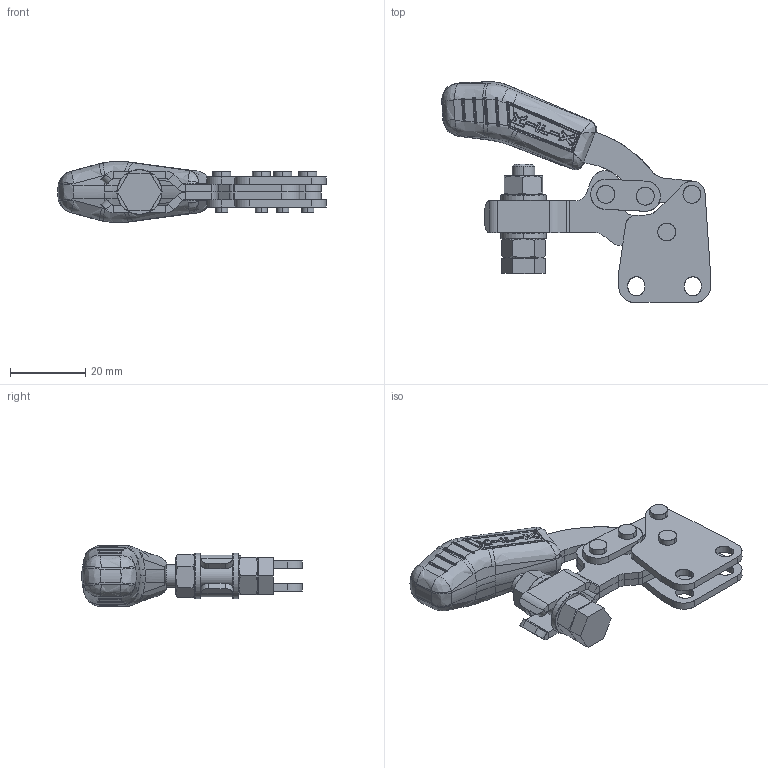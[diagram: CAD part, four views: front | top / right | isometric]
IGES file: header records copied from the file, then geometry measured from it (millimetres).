
Start section: SolidWorks IGES file using analytic representation for surfaces
Global section: file name: C:\Projetos\Grampos\KF-102\KF-102 R\KF-102 R.IGS; native system: SolidWorks 2013; preprocessor: SolidWorks 2013; author: Ricardo; date: 140815.153832; units: millimetre
Bounding box: 71.29 x 58.52 x 16.29 mm (x, y, z)
Surface area: 14589.8 mm2 (no closed solid volume)
Topology: 0 solids, 0 shells, 1031 faces, 11235 edges, 11212 vertices
Faces by surface type: bspline 563, revolution 468
